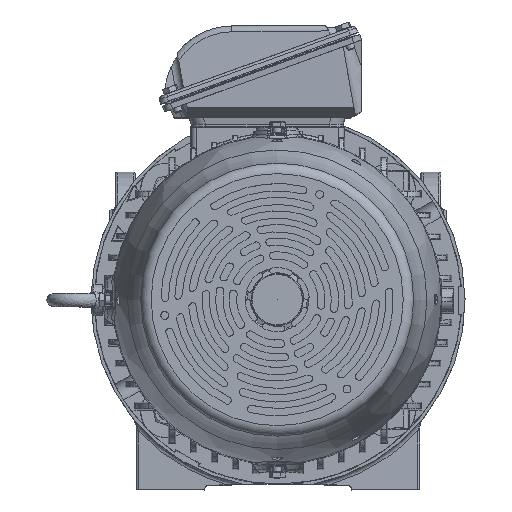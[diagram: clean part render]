
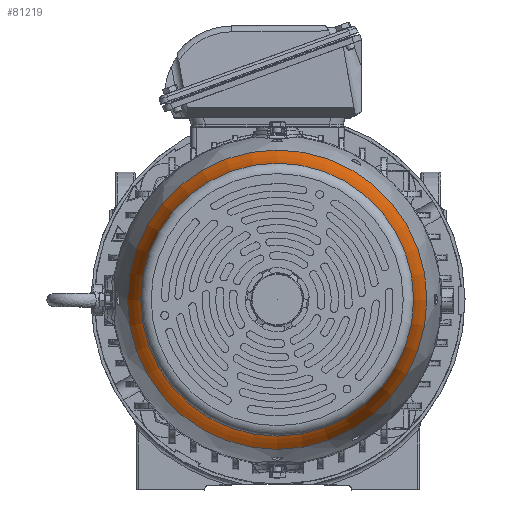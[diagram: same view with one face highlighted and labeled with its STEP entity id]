
A CAD part, top view. The second image highlights one B-rep face of the part: STEP entity #81219.
In plain terms, the highlighted toroidal (fillet/blend) face has major radius 308.616 mm and minor radius 180 mm.
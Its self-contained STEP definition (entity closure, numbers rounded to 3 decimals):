
#1226=TOROIDAL_SURFACE('',#88440,308.617,180.);
#10474=FACE_OUTER_BOUND('',#15329,.T.);
#15329=EDGE_LOOP('',(#65057,#65058,#65059,#65060,#65061,#65062));
#19767=CIRCLE('',#88437,129.927);
#19768=CIRCLE('',#88438,129.927);
#19770=CIRCLE('',#88441,142.487);
#19771=CIRCLE('',#88442,142.487);
#19772=CIRCLE('',#88443,180.);
#35699=VERTEX_POINT('',#151621);
#35700=VERTEX_POINT('',#151622);
#35701=VERTEX_POINT('',#151627);
#35702=VERTEX_POINT('',#151628);
#45997=EDGE_CURVE('',#35699,#35700,#19767,.T.);
#45998=EDGE_CURVE('',#35700,#35699,#19768,.T.);
#46000=EDGE_CURVE('',#35701,#35702,#19770,.T.);
#46001=EDGE_CURVE('',#35702,#35701,#19771,.T.);
#46002=EDGE_CURVE('',#35702,#35700,#19772,.T.);
#65057=ORIENTED_EDGE('',*,*,#46000,.F.);
#65058=ORIENTED_EDGE('',*,*,#46001,.F.);
#65059=ORIENTED_EDGE('',*,*,#46002,.T.);
#65060=ORIENTED_EDGE('',*,*,#45998,.T.);
#65061=ORIENTED_EDGE('',*,*,#45997,.T.);
#65062=ORIENTED_EDGE('',*,*,#46002,.F.);
#81219=ADVANCED_FACE('',(#10474),#1226,.F.);
#88437=AXIS2_PLACEMENT_3D('',#151623,#105174,#105175);
#88438=AXIS2_PLACEMENT_3D('',#151624,#105176,#105177);
#88440=AXIS2_PLACEMENT_3D('',#151626,#105180,#105181);
#88441=AXIS2_PLACEMENT_3D('',#151629,#105182,#105183);
#88442=AXIS2_PLACEMENT_3D('',#151630,#105184,#105185);
#88443=AXIS2_PLACEMENT_3D('',#151631,#105186,#105187);
#105174=DIRECTION('center_axis',(0.,0.,
-1.));
#105175=DIRECTION('ref_axis',(-1.,0.,0.));
#105176=DIRECTION('center_axis',(0.,0.,
-1.));
#105177=DIRECTION('ref_axis',(-1.,0.,0.));
#105180=DIRECTION('center_axis',(0.,0.,
-1.));
#105181=DIRECTION('ref_axis',(-1.,0.,0.));
#105182=DIRECTION('center_axis',(0.,0.,
-1.));
#105183=DIRECTION('ref_axis',(-1.,0.,0.));
#105184=DIRECTION('center_axis',(0.,0.,
-1.));
#105185=DIRECTION('ref_axis',(-1.,0.,0.));
#105186=DIRECTION('center_axis',(0.,1.,0.));
#105187=DIRECTION('ref_axis',(1.,0.,0.));
#151621=CARTESIAN_POINT('',(-130.791,0.,601.005));
#151622=CARTESIAN_POINT('',(129.064,0.,601.005));
#151623=CARTESIAN_POINT('Origin',(-0.863,0.,
601.005));
#151624=CARTESIAN_POINT('Origin',(-0.863,0.,
601.005));
#151626=CARTESIAN_POINT('Origin',(-0.863,0.,
622.687));
#151627=CARTESIAN_POINT('',(-143.35,0.,553.399));
#151628=CARTESIAN_POINT('',(141.623,0.,553.399));
#151629=CARTESIAN_POINT('Origin',(-0.863,0.,
553.399));
#151630=CARTESIAN_POINT('Origin',(-0.863,0.,
553.399));
#151631=CARTESIAN_POINT('Origin',(307.753,0.,
622.687));
